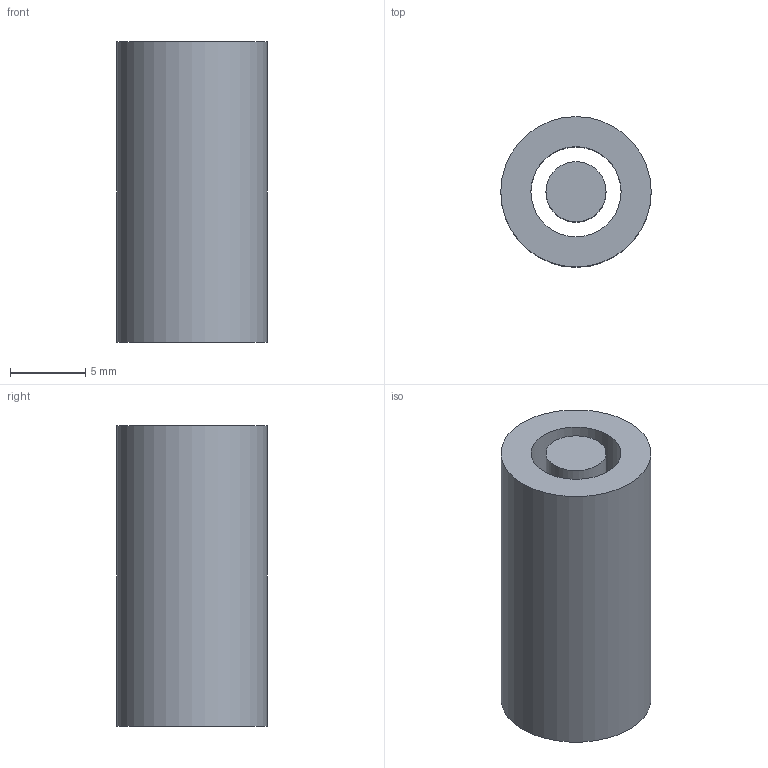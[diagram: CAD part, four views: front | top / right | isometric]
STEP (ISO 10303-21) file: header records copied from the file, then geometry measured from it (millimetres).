
FILE_DESCRIPTION(('Open CASCADE Model'),'2;1');
FILE_NAME('Open CASCADE Shape Model','2026-10-28T05:15:08',('Author'),( 'Open CASCADE'),'Open CASCADE STEP processor 7.8','Open CASCADE 7.8' ,'Unknown');
FILE_SCHEMA(('AUTOMOTIVE_DESIGN { 1 0 10303 214 1 1 1 1 }'));
Length unit declared in the file: millimetre
Products named in the file (3): radius-3mm; chamber-body; reference-probe
Assembly tree (2 placements, depth 2):
  radius-3mm
    chamber-body
    reference-probe
Bounding box: 10 x 10 x 20 mm (x, y, z)
Volume: 1256.6 mm3; surface area: 1382.3 mm2
Topology: 2 solids, 2 shells, 7 faces, 9 edges, 6 vertices
Faces by surface type: plane 4, cylinder 3
Full cylindrical faces by diameter (mm): 4 x1, 6 x1, 10 x1
Entity records: 332 total; most frequent: DIRECTION 53, CARTESIAN_POINT 43, ORIENTED_EDGE 18, PCURVE 18, DEFINITIONAL_REPRESENTATION 18, AXIS2_PLACEMENT_3D 16, LINE 15, VECTOR 15
